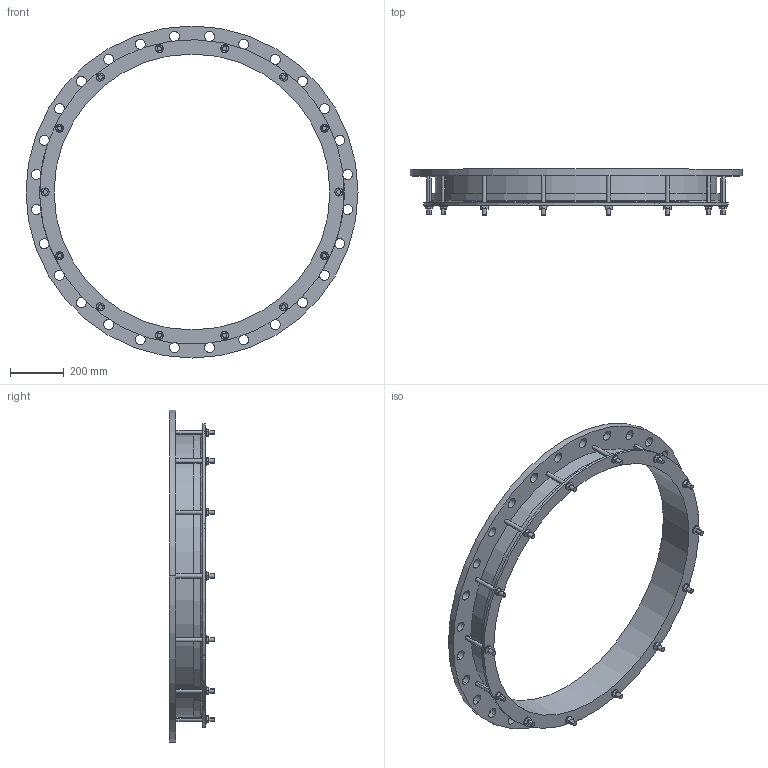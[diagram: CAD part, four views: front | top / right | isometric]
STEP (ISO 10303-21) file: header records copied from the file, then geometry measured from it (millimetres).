
FILE_DESCRIPTION((''),'2;1');
FILE_NAME('1019X1000PN10_7NOT','2019-01-17T',('mfairey'),('Glynwed Pipe Systems'),'CREO PARAMETRIC BY PTC INC, 2016130','CREO PARAMETRIC BY PTC INC, 2016130','');
FILE_SCHEMA(('CONFIG_CONTROL_DESIGN'));
Length unit declared in the file: millimetre
Products named in the file (1): 1019X1000PN10_7NOT
Bounding box: 1230 x 169 x 1230 mm (x, y, z)
Volume: 15693998.8 mm3; surface area: 2007465.5 mm2
Topology: 1 solids, 1 shells, 296 faces, 790 edges, 526 vertices
Faces by surface type: cylinder 160, plane 130, cone 4, torus 2
Entity records: 10565 total; most frequent: CARTESIAN_POINT 2776, DIRECTION 1622, ORIENTED_EDGE 1580, EDGE_CURVE 790, AXIS2_PLACEMENT_3D 603, VERTEX_POINT 526, VECTOR 416, LINE 416
